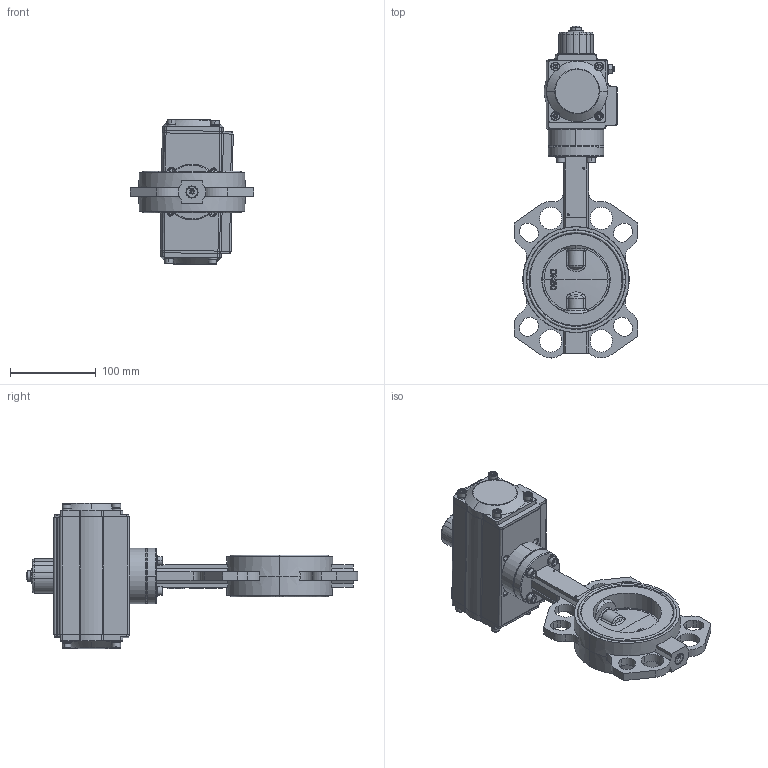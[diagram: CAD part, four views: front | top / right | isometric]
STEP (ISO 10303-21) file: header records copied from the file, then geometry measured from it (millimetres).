
FILE_DESCRIPTION (( 'STEP AP203' ), '1' );
FILE_NAME ('VPI-N03 DN 80.step', '2016-09-29T15:08:04', ( 'TECOFI' ), ( '' ), 'SwSTEP 2.0', 'SolidWorks 2014', '' );
FILE_SCHEMA (( 'CONFIG_CONTROL_DESIGN' ));
Length unit declared in the file: millimetre
Products named in the file (1): VPI-N03 DN 80
Bounding box: 144 x 387.98 x 169.99 mm (x, y, z)
Surface area: 315245.2 mm2 (no closed solid volume)
Topology: 0 solids, 54 shells, 2673 faces, 6617 edges, 4141 vertices
Faces by surface type: plane 1011, cylinder 671, bspline 539, cone 406, torus 46
Entity records: 109610 total; most frequent: CARTESIAN_POINT 49929, ORIENTED_EDGE 13128, DIRECTION 11428, EDGE_CURVE 6570, AXIS2_PLACEMENT_3D 4293, VERTEX_POINT 4141, EDGE_LOOP 2907, VECTOR 2842
